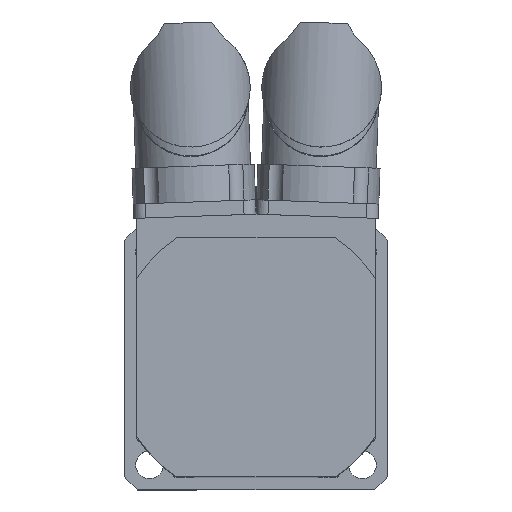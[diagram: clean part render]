
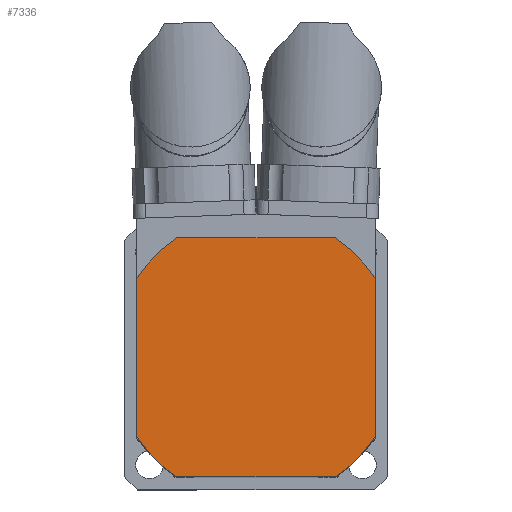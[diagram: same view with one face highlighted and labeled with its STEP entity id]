
A CAD part, top view. The second image highlights one B-rep face of the part: STEP entity #7336.
In plain terms, the highlighted planar face has unit normal (0, 0, 1).
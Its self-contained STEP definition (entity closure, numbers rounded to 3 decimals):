
#7156=CARTESIAN_POINT('',(16.583,25.0,4.5));
#7157=VERTEX_POINT('',#7156);
#7158=CARTESIAN_POINT('',(25.0,16.583,4.5));
#7159=VERTEX_POINT('',#7158);
#7160=CARTESIAN_POINT('',(0.0,0.0,4.5));
#7161=DIRECTION('',(0.0,0.0,-1.0));
#7162=DIRECTION('',(-0.833,-0.553,0.0));
#7163=AXIS2_PLACEMENT_3D('',#7160,#7161,#7162);
#7164=CIRCLE('',#7163,30.0);
#7165=EDGE_CURVE('',#7157,#7159,#7164,.T.);
#7188=CARTESIAN_POINT('',(25.,-16.583,4.5));
#7189=VERTEX_POINT('',#7188);
#7190=CARTESIAN_POINT('',(16.583,-25.0,4.5));
#7191=VERTEX_POINT('',#7190);
#7192=CARTESIAN_POINT('',(0.0,0.0,4.5));
#7193=DIRECTION('',(0.0,0.0,-1.0));
#7194=DIRECTION('',(-0.553,0.833,0.0));
#7195=AXIS2_PLACEMENT_3D('',#7192,#7193,#7194);
#7196=CIRCLE('',#7195,30.0);
#7197=EDGE_CURVE('',#7189,#7191,#7196,.T.);
#7222=CARTESIAN_POINT('',(-16.583,-25.0,4.5));
#7223=VERTEX_POINT('',#7222);
#7224=CARTESIAN_POINT('',(-25.0,-16.583,4.5));
#7225=VERTEX_POINT('',#7224);
#7226=CARTESIAN_POINT('',(0.0,0.0,4.5));
#7227=DIRECTION('',(0.0,0.0,-1.0));
#7228=DIRECTION('',(0.833,0.553,0.0));
#7229=AXIS2_PLACEMENT_3D('',#7226,#7227,#7228);
#7230=CIRCLE('',#7229,30.0);
#7231=EDGE_CURVE('',#7223,#7225,#7230,.T.);
#7262=CARTESIAN_POINT('',(-25.,16.583,4.5));
#7263=VERTEX_POINT('',#7262);
#7264=CARTESIAN_POINT('',(-16.583,25.0,4.5));
#7265=VERTEX_POINT('',#7264);
#7266=CARTESIAN_POINT('',(0.0,0.0,4.5));
#7267=DIRECTION('',(0.0,0.0,-1.0));
#7268=DIRECTION('',(0.553,-0.833,0.0));
#7269=AXIS2_PLACEMENT_3D('',#7266,#7267,#7268);
#7270=CIRCLE('',#7269,30.);
#7271=EDGE_CURVE('',#7263,#7265,#7270,.T.);
#7294=CARTESIAN_POINT('',(-16.583,25.0,4.5));
#7295=DIRECTION('',(1.0,0.0,0.0));
#7296=VECTOR('',#7295,33.166);
#7297=LINE('',#7294,#7296);
#7298=EDGE_CURVE('',#7265,#7157,#7297,.T.);
#7306=CARTESIAN_POINT('',(-27.5,-27.5,4.5));
#7307=DIRECTION('',(0.0,0.0,1.0));
#7308=DIRECTION('',(1.0,0.0,0.0));
#7309=AXIS2_PLACEMENT_3D('',#7306,#7307,#7308);
#7310=PLANE('',#7309);
#7311=ORIENTED_EDGE('',*,*,#7165,.F.);
#7312=ORIENTED_EDGE('',*,*,#7298,.F.);
#7313=ORIENTED_EDGE('',*,*,#7271,.F.);
#7314=CARTESIAN_POINT('',(-25.0,-16.583,4.5));
#7315=DIRECTION('',(0.0,1.0,0.0));
#7316=VECTOR('',#7315,33.166);
#7317=LINE('',#7314,#7316);
#7318=EDGE_CURVE('',#7225,#7263,#7317,.T.);
#7319=ORIENTED_EDGE('',*,*,#7318,.F.);
#7320=ORIENTED_EDGE('',*,*,#7231,.F.);
#7321=CARTESIAN_POINT('',(16.583,-25.0,4.5));
#7322=DIRECTION('',(-1.0,0.0,0.0));
#7323=VECTOR('',#7322,33.166);
#7324=LINE('',#7321,#7323);
#7325=EDGE_CURVE('',#7191,#7223,#7324,.T.);
#7326=ORIENTED_EDGE('',*,*,#7325,.F.);
#7327=ORIENTED_EDGE('',*,*,#7197,.F.);
#7328=CARTESIAN_POINT('',(25.0,16.583,4.5));
#7329=DIRECTION('',(0.0,-1.0,0.0));
#7330=VECTOR('',#7329,33.166);
#7331=LINE('',#7328,#7330);
#7332=EDGE_CURVE('',#7159,#7189,#7331,.T.);
#7333=ORIENTED_EDGE('',*,*,#7332,.F.);
#7334=EDGE_LOOP('',(#7311,#7312,#7313,#7319,#7320,#7326,#7327,#7333));
#7335=FACE_OUTER_BOUND('',#7334,.T.);
#7336=ADVANCED_FACE('',(#7335),#7310,.T.);
